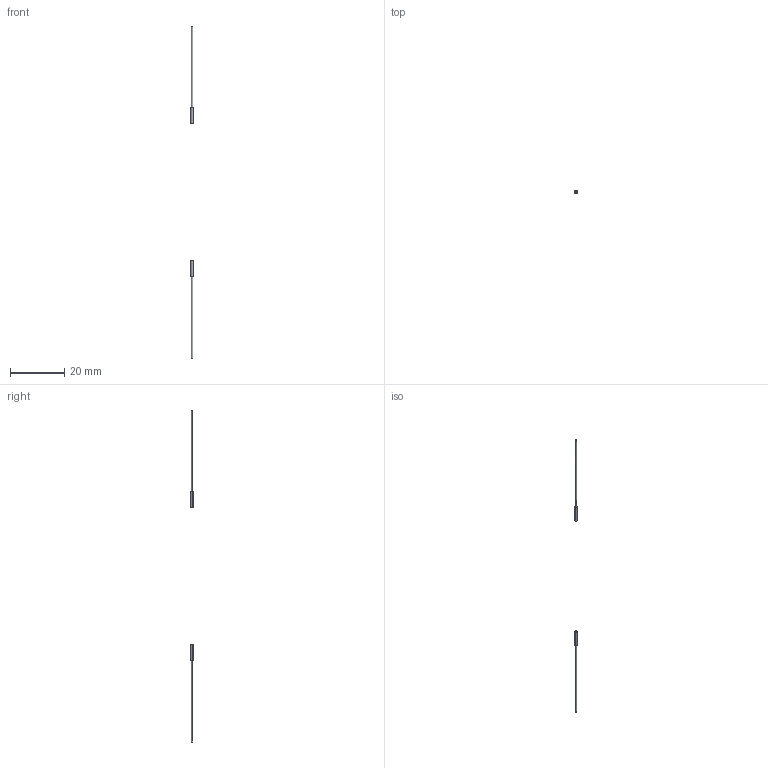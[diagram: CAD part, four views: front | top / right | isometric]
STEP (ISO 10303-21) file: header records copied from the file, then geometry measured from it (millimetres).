
FILE_DESCRIPTION (( 'STEP AP203' ), '1' );
FILE_NAME ('FQ-58.STEP', '2020-11-03T07:02:19', ( '' ), ( '' ), 'SwSTEP 2.0', 'SolidWorks 2020', '' );
FILE_SCHEMA (( 'CONFIG_CONTROL_DESIGN' ));
Length unit declared in the file: millimetre
Products named in the file (3): FQ-58_R; FQ-58; FQ-58_T
Assembly tree (2 placements, depth 2):
  FQ-58
    FQ-58_T
    FQ-58_R
Bounding box: 1 x 1 x 122 mm (x, y, z)
Volume: 32.5 mm3; surface area: 173.1 mm2
Topology: 2 solids, 2 shells, 26 faces, 48 edges, 32 vertices
Faces by surface type: cylinder 16, plane 10
Entity records: 969 total; most frequent: DIRECTION 142, CARTESIAN_POINT 111, ORIENTED_EDGE 96, AXIS2_PLACEMENT_3D 63, EDGE_CURVE 48, EDGE_LOOP 32, CIRCLE 32, VERTEX_POINT 32
